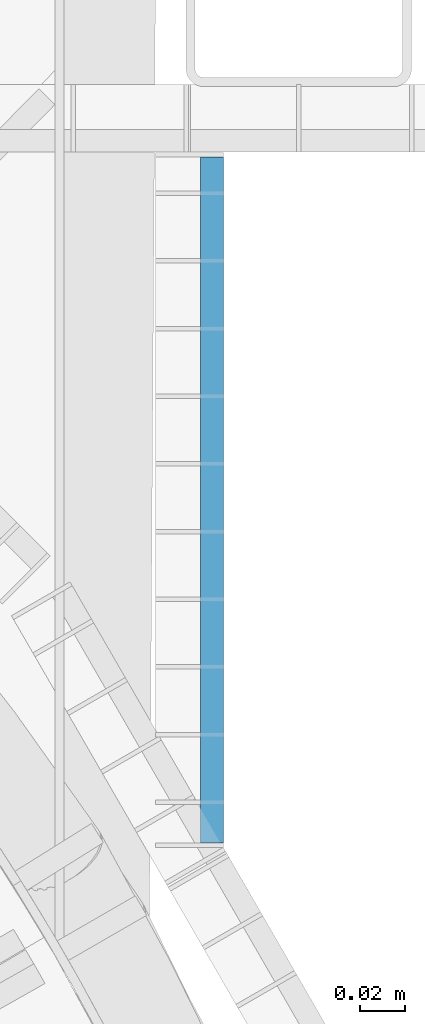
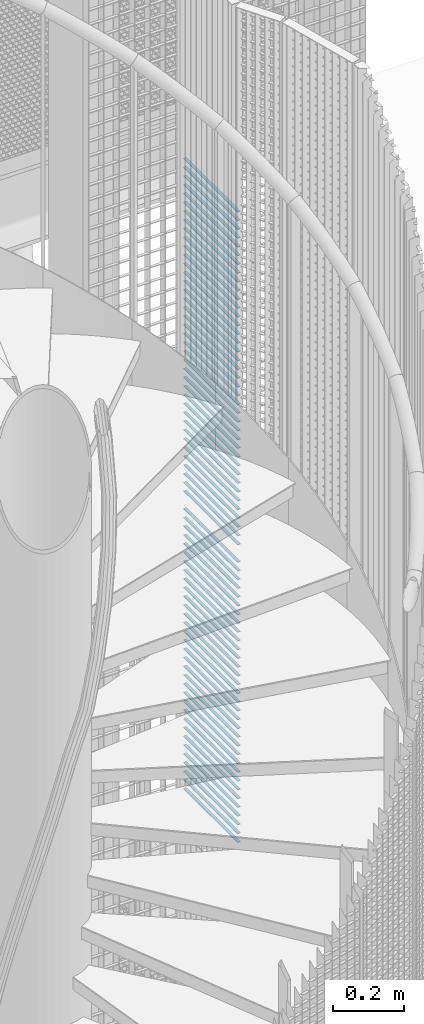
# One storey, part 273 of 1183: 72 beams, 1 element without a shape of its own.
"""IFC2X3 building model written with IfcOpenShell, lengths in millimetres."""

import ifcopenshell
import ifcopenshell.guid

model = None  # the IFC model being written
_history = None  # IfcOwnerHistory: only IFC2X3 demands one
_inside = {}  # id of a spatial element -> (the spatial element, [elements in it])
_under = {}  # id of a project, library or spatial element -> (it, [spatial elements below it])
_declared = {}  # id of a project -> (the project, [libraries it declares])
_typed = {}  # id of a type object -> (the type object, [elements of that type])
_made_of = {}  # id of a material, layer set ... -> (it, [elements and type objects made of it])


def new_model(schema):
    """Start an empty IFC model of exactly this schema.

    Asked for "IFC4X3", IfcOpenShell would pick the latest addendum, in which some entities
    have other attributes; the version numbers below select the first issue.
    IFC2X3 requires an IfcOwnerHistory on every rooted entity: one is made here for all.
    """
    global model, _history
    if schema == "IFC4X3":
        model = ifcopenshell.file(schema_version=(4, 3, 0, 0))
    else:
        model = ifcopenshell.file(schema=schema)
    _inside.clear()
    _under.clear()
    _declared.clear()
    _typed.clear()
    _made_of.clear()
    _history = None
    if model.schema == "IFC2X3":
        org = make("IfcOrganization", Name="unknown")
        user = make(
            "IfcPersonAndOrganization",
            ThePerson=make("IfcPerson", FamilyName="unknown"),
            TheOrganization=org,
        )
        app = make(
            "IfcApplication",
            ApplicationDeveloper=org,
            Version="unknown",
            ApplicationFullName="unknown",
            ApplicationIdentifier="unknown",
        )
        _history = make(
            "IfcOwnerHistory",
            OwningUser=user,
            OwningApplication=app,
            ChangeAction="ADDED",
            CreationDate=0,
        )
    return model


def make(cls, **values):
    """One entity of the class cls with the attributes given. An attribute that is None is left unset."""
    return model.create_entity(
        cls, **{name: value for name, value in values.items() if value is not None}
    )


def rooted(cls, **values):
    """An entity with a GlobalId (a new one), such as an element, a storey or a relation."""
    return make(cls, GlobalId=ifcopenshell.guid.new(), OwnerHistory=_history, **values)


def si_unit(unit_type, name, prefix=None):
    """IfcSIUnit, for example si_unit("LENGTHUNIT", "METRE", prefix="MILLI")."""
    return make("IfcSIUnit", UnitType=unit_type, Prefix=prefix, Name=name)


def assignment(units):
    """IfcUnitAssignment: the units of a project."""
    return None if units is None else make("IfcUnitAssignment", Units=units)


def point(xyz):
    """IfcCartesianPoint."""
    return None if xyz is None else make("IfcCartesianPoint", Coordinates=xyz)


def direction(xyz):
    """IfcDirection."""
    return None if xyz is None else make("IfcDirection", DirectionRatios=xyz)


def frame(location, z_axis=None, x_axis=None):
    """IfcAxis2Placement3D, a coordinate frame: its origin and axes. An axis left out is left unset."""
    return make(
        "IfcAxis2Placement3D",
        Location=point(location),
        Axis=direction(z_axis),
        RefDirection=direction(x_axis),
    )


def frame_2d(location, x_axis=None):
    """IfcAxis2Placement2D, a coordinate frame in the plane: its origin and x axis."""
    return make(
        "IfcAxis2Placement2D", Location=point(location), RefDirection=direction(x_axis)
    )


def origin_with_axes():
    """The frame at (0, 0, 0) with the z axis (0, 0, 1) and the x axis (1, 0, 0) written out."""
    return frame((0.0, 0.0, 0.0), z_axis=(0.0, 0.0, 1.0), x_axis=(1.0, 0.0, 0.0))


def origin_2d_with_axis():
    """The frame at (0, 0) in the plane with the x axis (1, 0) written out."""
    return frame_2d((0.0, 0.0), x_axis=(1.0, 0.0))


def place(relative_to, where):
    """IfcLocalPlacement: puts the frame where relative to a parent placement (None: the world)."""
    return make(
        "IfcLocalPlacement", PlacementRelTo=relative_to, RelativePlacement=where
    )


def context(
    kind, dimensions, precision=None, world=None, true_north=None, identifier=None
):
    """IfcGeometricRepresentationContext, for example the 3D "Model" context."""
    return make(
        "IfcGeometricRepresentationContext",
        ContextIdentifier=identifier,
        ContextType=kind,
        CoordinateSpaceDimension=dimensions,
        Precision=precision,
        WorldCoordinateSystem=world,
        TrueNorth=true_north,
    )


def subcontext(parent, identifier, kind, view, scale=None):
    """IfcGeometricRepresentationSubContext, for example "Body" below "Model"."""
    return make(
        "IfcGeometricRepresentationSubContext",
        ContextIdentifier=identifier,
        ContextType=kind,
        ParentContext=parent,
        TargetScale=scale,
        TargetView=view,
    )


def project(units=None, contexts=None):
    """IfcProject with its units and contexts."""
    return rooted(
        "IfcProject",
        Name="project",
        RepresentationContexts=contexts,
        UnitsInContext=assignment(units),
    )


def spatial(cls, under=None, at=None, **own):
    """A site, building, storey or space (cls), placed at a placement, below another one or the project."""
    s = rooted(cls, ObjectPlacement=at, **own)
    if under is not None:
        _under.setdefault(under.id(), (under, []))[1].append(s)
    return s


def profile(cls, at=None, kind="AREA", **sizes):
    """A parametric profile (cls). Its sizes go by their IFC names, for example OverallWidth=200.0."""
    return make(cls, ProfileType=kind, Position=at, **sizes)


def rectangle(**sizes):
    """IfcRectangleProfileDef."""
    return profile("IfcRectangleProfileDef", **sizes)


def extrude(swept, where, along, depth):
    """IfcExtrudedAreaSolid: the profile swept, set in the frame where, extruded along a direction by depth."""
    return make(
        "IfcExtrudedAreaSolid",
        SweptArea=swept,
        Position=where,
        ExtrudedDirection=direction(along),
        Depth=depth,
    )


def shape(context_of_items, identifier, shape_type, items):
    """IfcShapeRepresentation: the items that make up one representation, for example the "Body"."""
    return make(
        "IfcShapeRepresentation",
        ContextOfItems=context_of_items,
        RepresentationIdentifier=identifier,
        RepresentationType=shape_type,
        Items=items,
    )


def material(Name=None, Category=None):
    """IfcMaterial."""
    return make("IfcMaterial", Name=Name, Category=Category)


def made_of(thing, what):
    """Note that an element or type object is made of a material, layer set ...; save() writes the relation."""
    if what is not None:
        _made_of.setdefault(what.id(), (what, []))[1].append(thing)
    return thing


def type_object(cls, material=None, **own):
    """A type object (cls), such as IfcWallType, which elements share."""
    return made_of(rooted(cls, **own), material)


def element(
    cls,
    number,
    at=None,
    inside=None,
    cuts=None,
    type_object=None,
    material=None,
    context=None,
    identifier="Body",
    shape_type=None,
    held_by="IfcProductDefinitionShape",
    body=None,
    shapes=None,
    **own,
):
    """One element of the class cls, such as IfcWall. Its Tag is "e" and its number.

    at: its placement. inside: the storey or other place that contains it. cuts: it is an
    opening in that element (IfcRelVoidsElement). A single representation is given by context,
    identifier, shape_type and body (its items); several are given by shapes. held_by: the class
    of the entity that holds the representations. save() writes the other relations.
    """
    e = rooted(cls, Tag="e%d" % number, ObjectPlacement=at, **own)
    if body is not None:
        shapes = [shape(context, identifier, shape_type, body)]
    if shapes is not None:
        e.Representation = make(held_by, Representations=shapes)
    if inside is not None:
        _inside.setdefault(inside.id(), (inside, []))[1].append(e)
    if cuts is not None:
        rooted(
            "IfcRelVoidsElement", RelatingBuildingElement=cuts, RelatedOpeningElement=e
        )
    if type_object is not None:
        _typed.setdefault(type_object.id(), (type_object, []))[1].append(e)
    return made_of(e, material)


def aggregate(whole, parts):
    """IfcRelAggregates: a whole, such as a stair, and the parts it consists of."""
    return rooted("IfcRelAggregates", RelatingObject=whole, RelatedObjects=parts)


def save(model, path):
    """Write the relations noted so far, then the file.

    IfcRelAggregates (storeys below a building ...), IfcRelContainedInSpatialStructure (elements
    in a storey), IfcRelDefinesByType, IfcRelAssociatesMaterial and IfcRelDeclares: one each for
    every whole, place, type object, material and project.
    """
    for whole, parts in _under.values():
        aggregate(whole, parts)
    for where, things in _inside.values():
        rooted(
            "IfcRelContainedInSpatialStructure",
            RelatedElements=things,
            RelatingStructure=where,
        )
    for kind, things in _typed.values():
        rooted("IfcRelDefinesByType", RelatedObjects=things, RelatingType=kind)
    for what, things in _made_of.values():
        rooted("IfcRelAssociatesMaterial", RelatedObjects=things, RelatingMaterial=what)
    for by, libraries in _declared.values():
        rooted("IfcRelDeclares", RelatingContext=by, RelatedDefinitions=libraries)
    model.write(path)


model = new_model("IFC2X3")

# Units and contexts
model_context = context("Model", 3, precision=1e-05, world=origin_with_axes())
body_context = subcontext(model_context, "Body", "Model", "MODEL_VIEW")
ifc_project = project(units=[si_unit("LENGTHUNIT", "METRE", prefix="MILLI"), si_unit("AREAUNIT", "SQUARE_METRE"), si_unit("VOLUMEUNIT", "CUBIC_METRE"), si_unit("MASSUNIT", "GRAM", prefix="KILO"), si_unit("TIMEUNIT", "SECOND"), si_unit("PLANEANGLEUNIT", "RADIAN"), si_unit("SOLIDANGLEUNIT", "STERADIAN"), si_unit("THERMODYNAMICTEMPERATUREUNIT", "DEGREE_CELSIUS"), si_unit("LUMINOUSINTENSITYUNIT", "LUMEN")], contexts=[model_context])

# Site, building, storey
site_placement = place(None, origin_with_axes())
site = spatial("IfcSite", under=ifc_project, at=site_placement, Name="Undefined", CompositionType="ELEMENT")
building_placement = place(site_placement, origin_with_axes())
building = spatial("IfcBuilding", under=site, at=building_placement, Name="Undefined", CompositionType="ELEMENT")
storey_placement = place(building_placement, origin_with_axes())
storey = spatial("IfcBuildingStorey", under=building, at=storey_placement, Name="Undefined", CompositionType="ELEMENT", Elevation=0.0)

# Assembly, beams
assembly_placement = place(storey_placement, origin_with_axes())
assembly = element("IfcElementAssembly", 1, at=assembly_placement, inside=storey, Name="BORDURE", AssemblyPlace="NOTDEFINED", PredefinedType="NOTDEFINED")
ifc_material = material(Name="STEEL/S235JR")
beam_type = type_object("IfcBeamType", Name="PL2*10", PredefinedType="NOTDEFINED")
beam_1_placement = place(assembly_placement, frame((961.586915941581, 564.782669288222, 17280.0), z_axis=(1.0, 0.0, 0.0), x_axis=(0.0, 1.0, 0.0)))
beam_1 = element("IfcBeam", 2, at=beam_1_placement, type_object=beam_type, material=ifc_material, Name="ENTRETOISE", context=body_context, shape_type="SweptSolid", body=[
    extrude(rectangle(XDim=2.0, YDim=10.0, at=origin_2d_with_axis()), frame((303.999999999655, 0.0, 0.0), z_axis=(-1.0, 0.0, 0.0), x_axis=(0.0, -1.0, 0.0)), (0.0, 0.0, 1.0), 304.0),
])
beam_2_placement = place(assembly_placement, frame((961.586915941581, 564.782669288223, 17250.0), z_axis=(1.0, 0.0, 0.0), x_axis=(0.0, 1.0, 0.0)))
beam_2 = element("IfcBeam", 3, at=beam_2_placement, type_object=beam_type, material=ifc_material, Name="ENTRETOISE", context=body_context, shape_type="SweptSolid", body=[
    extrude(rectangle(XDim=2.0, YDim=10.0, at=origin_2d_with_axis()), frame((303.999999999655, 0.0, 0.0), z_axis=(-1.0, 0.0, 0.0), x_axis=(0.0, -1.0, 0.0)), (0.0, 0.0, 1.0), 304.0),
])
beam_3_placement = place(assembly_placement, frame((961.586915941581, 564.782669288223, 17220.0), z_axis=(1.0, 0.0, 0.0), x_axis=(0.0, 1.0, 0.0)))
beam_3 = element("IfcBeam", 4, at=beam_3_placement, type_object=beam_type, material=ifc_material, Name="ENTRETOISE", context=body_context, shape_type="SweptSolid", body=[
    extrude(rectangle(XDim=2.0, YDim=10.0, at=origin_2d_with_axis()), frame((303.999999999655, 0.0, 0.0), z_axis=(-1.0, 0.0, 0.0), x_axis=(0.0, -1.0, 0.0)), (0.0, 0.0, 1.0), 304.0),
])
beam_4_placement = place(assembly_placement, frame((961.586915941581, 564.782669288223, 17190.0), z_axis=(1.0, 0.0, 0.0), x_axis=(0.0, 1.0, 0.0)))
beam_4 = element("IfcBeam", 5, at=beam_4_placement, type_object=beam_type, material=ifc_material, Name="ENTRETOISE", context=body_context, shape_type="SweptSolid", body=[
    extrude(rectangle(XDim=2.0, YDim=10.0, at=origin_2d_with_axis()), frame((303.999999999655, 0.0, 0.0), z_axis=(-1.0, 0.0, 0.0), x_axis=(0.0, -1.0, 0.0)), (0.0, 0.0, 1.0), 304.0),
])
beam_5_placement = place(assembly_placement, frame((961.586915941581, 564.782669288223, 17160.0), z_axis=(1.0, 0.0, 0.0), x_axis=(0.0, 1.0, 0.0)))
beam_5 = element("IfcBeam", 6, at=beam_5_placement, type_object=beam_type, material=ifc_material, Name="ENTRETOISE", context=body_context, shape_type="SweptSolid", body=[
    extrude(rectangle(XDim=2.0, YDim=10.0, at=origin_2d_with_axis()), frame((303.999999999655, 0.0, 0.0), z_axis=(-1.0, 0.0, 0.0), x_axis=(0.0, -1.0, 0.0)), (0.0, 0.0, 1.0), 304.0),
])
beam_6_placement = place(assembly_placement, frame((961.586915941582, 564.782669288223, 17130.0), z_axis=(1.0, 0.0, 0.0), x_axis=(0.0, 1.0, 0.0)))
beam_6 = element("IfcBeam", 7, at=beam_6_placement, type_object=beam_type, material=ifc_material, Name="ENTRETOISE", context=body_context, shape_type="SweptSolid", body=[
    extrude(rectangle(XDim=2.0, YDim=10.0, at=origin_2d_with_axis()), frame((303.999999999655, 0.0, 0.0), z_axis=(-1.0, 0.0, 0.0), x_axis=(0.0, -1.0, 0.0)), (0.0, 0.0, 1.0), 304.0),
])
beam_7_placement = place(assembly_placement, frame((961.586915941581, 564.782669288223, 17100.0), z_axis=(1.0, 0.0, 0.0), x_axis=(0.0, 1.0, 0.0)))
beam_7 = element("IfcBeam", 8, at=beam_7_placement, type_object=beam_type, material=ifc_material, Name="ENTRETOISE", context=body_context, shape_type="SweptSolid", body=[
    extrude(rectangle(XDim=2.0, YDim=10.0, at=origin_2d_with_axis()), frame((303.999999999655, 0.0, 0.0), z_axis=(-1.0, 0.0, 0.0), x_axis=(0.0, -1.0, 0.0)), (0.0, 0.0, 1.0), 304.0),
])
beam_8_placement = place(assembly_placement, frame((961.586915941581, 564.782669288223, 17070.0), z_axis=(1.0, 0.0, 0.0), x_axis=(0.0, 1.0, 0.0)))
beam_8 = element("IfcBeam", 9, at=beam_8_placement, type_object=beam_type, material=ifc_material, Name="ENTRETOISE", context=body_context, shape_type="SweptSolid", body=[
    extrude(rectangle(XDim=2.0, YDim=10.0, at=origin_2d_with_axis()), frame((303.999999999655, 0.0, 0.0), z_axis=(-1.0, 0.0, 0.0), x_axis=(0.0, -1.0, 0.0)), (0.0, 0.0, 1.0), 304.0),
])
beam_9_placement = place(assembly_placement, frame((961.586915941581, 564.782669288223, 17040.0), z_axis=(1.0, 0.0, 0.0), x_axis=(0.0, 1.0, 0.0)))
beam_9 = element("IfcBeam", 10, at=beam_9_placement, type_object=beam_type, material=ifc_material, Name="ENTRETOISE", context=body_context, shape_type="SweptSolid", body=[
    extrude(rectangle(XDim=2.0, YDim=10.0, at=origin_2d_with_axis()), frame((303.999999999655, 0.0, 0.0), z_axis=(-1.0, 0.0, 0.0), x_axis=(0.0, -1.0, 0.0)), (0.0, 0.0, 1.0), 304.0),
])
beam_10_placement = place(assembly_placement, frame((961.586915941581, 564.782669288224, 17010.0), z_axis=(1.0, 0.0, 0.0), x_axis=(0.0, 1.0, 0.0)))
beam_10 = element("IfcBeam", 11, at=beam_10_placement, type_object=beam_type, material=ifc_material, Name="ENTRETOISE", context=body_context, shape_type="SweptSolid", body=[
    extrude(rectangle(XDim=2.0, YDim=10.0, at=origin_2d_with_axis()), frame((303.999999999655, 0.0, 0.0), z_axis=(-1.0, 0.0, 0.0), x_axis=(0.0, -1.0, 0.0)), (0.0, 0.0, 1.0), 304.0),
])
beam_11_placement = place(assembly_placement, frame((961.586915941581, 564.782669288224, 16980.0), z_axis=(1.0, 0.0, 0.0), x_axis=(0.0, 1.0, 0.0)))
beam_11 = element("IfcBeam", 12, at=beam_11_placement, type_object=beam_type, material=ifc_material, Name="ENTRETOISE", context=body_context, shape_type="SweptSolid", body=[
    extrude(rectangle(XDim=2.0, YDim=10.0, at=origin_2d_with_axis()), frame((303.999999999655, 0.0, 0.0), z_axis=(-1.0, 0.0, 0.0), x_axis=(0.0, -1.0, 0.0)), (0.0, 0.0, 1.0), 304.0),
])
beam_12_placement = place(assembly_placement, frame((961.586915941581, 564.782669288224, 16950.0), z_axis=(1.0, 0.0, 0.0), x_axis=(0.0, 1.0, 0.0)))
beam_12 = element("IfcBeam", 13, at=beam_12_placement, type_object=beam_type, material=ifc_material, Name="ENTRETOISE", context=body_context, shape_type="SweptSolid", body=[
    extrude(rectangle(XDim=2.0, YDim=10.0, at=origin_2d_with_axis()), frame((303.999999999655, 0.0, 0.0), z_axis=(-1.0, 0.0, 0.0), x_axis=(0.0, -1.0, 0.0)), (0.0, 0.0, 1.0), 304.0),
])
beam_13_placement = place(assembly_placement, frame((961.586915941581, 564.782669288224, 16920.0), z_axis=(1.0, 0.0, 0.0), x_axis=(0.0, 1.0, 0.0)))
beam_13 = element("IfcBeam", 14, at=beam_13_placement, type_object=beam_type, material=ifc_material, Name="ENTRETOISE", context=body_context, shape_type="SweptSolid", body=[
    extrude(rectangle(XDim=2.0, YDim=10.0, at=origin_2d_with_axis()), frame((303.999999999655, 0.0, 0.0), z_axis=(-1.0, 0.0, 0.0), x_axis=(0.0, -1.0, 0.0)), (0.0, 0.0, 1.0), 304.0),
])
beam_14_placement = place(assembly_placement, frame((961.586915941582, 564.782669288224, 16890.0), z_axis=(1.0, 0.0, 0.0), x_axis=(0.0, 1.0, 0.0)))
beam_14 = element("IfcBeam", 15, at=beam_14_placement, type_object=beam_type, material=ifc_material, Name="ENTRETOISE", context=body_context, shape_type="SweptSolid", body=[
    extrude(rectangle(XDim=2.0, YDim=10.0, at=origin_2d_with_axis()), frame((303.999999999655, 0.0, 0.0), z_axis=(-1.0, 0.0, 0.0), x_axis=(0.0, -1.0, 0.0)), (0.0, 0.0, 1.0), 304.0),
])
beam_15_placement = place(assembly_placement, frame((961.586915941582, 564.782669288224, 16860.0), z_axis=(1.0, 0.0, 0.0), x_axis=(0.0, 1.0, 0.0)))
beam_15 = element("IfcBeam", 16, at=beam_15_placement, type_object=beam_type, material=ifc_material, Name="ENTRETOISE", context=body_context, shape_type="SweptSolid", body=[
    extrude(rectangle(XDim=2.0, YDim=10.0, at=origin_2d_with_axis()), frame((303.999999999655, 0.0, 0.0), z_axis=(-1.0, 0.0, 0.0), x_axis=(0.0, -1.0, 0.0)), (0.0, 0.0, 1.0), 304.0),
])
beam_16_placement = place(assembly_placement, frame((961.586915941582, 564.782669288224, 16830.0), z_axis=(1.0, 0.0, 0.0), x_axis=(0.0, 1.0, 0.0)))
beam_16 = element("IfcBeam", 17, at=beam_16_placement, type_object=beam_type, material=ifc_material, Name="ENTRETOISE", context=body_context, shape_type="SweptSolid", body=[
    extrude(rectangle(XDim=2.0, YDim=10.0, at=origin_2d_with_axis()), frame((303.999999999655, 0.0, 0.0), z_axis=(-1.0, 0.0, 0.0), x_axis=(0.0, -1.0, 0.0)), (0.0, 0.0, 1.0), 304.0),
])
beam_17_placement = place(assembly_placement, frame((961.586915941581, 564.782669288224, 16800.0), z_axis=(1.0, 0.0, 0.0), x_axis=(0.0, 1.0, 0.0)))
beam_17 = element("IfcBeam", 18, at=beam_17_placement, type_object=beam_type, material=ifc_material, Name="ENTRETOISE", context=body_context, shape_type="SweptSolid", body=[
    extrude(rectangle(XDim=2.0, YDim=10.0, at=origin_2d_with_axis()), frame((303.999999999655, 0.0, 0.0), z_axis=(-1.0, 0.0, 0.0), x_axis=(0.0, -1.0, 0.0)), (0.0, 0.0, 1.0), 304.0),
])
beam_18_placement = place(assembly_placement, frame((961.586915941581, 564.782669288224, 16770.0), z_axis=(1.0, 0.0, 0.0), x_axis=(0.0, 1.0, 0.0)))
beam_18 = element("IfcBeam", 19, at=beam_18_placement, type_object=beam_type, material=ifc_material, Name="ENTRETOISE", context=body_context, shape_type="SweptSolid", body=[
    extrude(rectangle(XDim=2.0, YDim=10.0, at=origin_2d_with_axis()), frame((303.999999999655, 0.0, 0.0), z_axis=(-1.0, 0.0, 0.0), x_axis=(0.0, -1.0, 0.0)), (0.0, 0.0, 1.0), 304.0),
])
beam_19_placement = place(assembly_placement, frame((961.586915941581, 564.782669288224, 16740.0), z_axis=(1.0, 0.0, 0.0), x_axis=(0.0, 1.0, 0.0)))
beam_19 = element("IfcBeam", 20, at=beam_19_placement, type_object=beam_type, material=ifc_material, Name="ENTRETOISE", context=body_context, shape_type="SweptSolid", body=[
    extrude(rectangle(XDim=2.0, YDim=10.0, at=origin_2d_with_axis()), frame((303.999999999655, 0.0, 0.0), z_axis=(-1.0, 0.0, 0.0), x_axis=(0.0, -1.0, 0.0)), (0.0, 0.0, 1.0), 304.0),
])
beam_20_placement = place(assembly_placement, frame((961.586915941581, 564.782669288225, 16710.0), z_axis=(1.0, 0.0, 0.0), x_axis=(0.0, 1.0, 0.0)))
beam_20 = element("IfcBeam", 21, at=beam_20_placement, type_object=beam_type, material=ifc_material, Name="ENTRETOISE", context=body_context, shape_type="SweptSolid", body=[
    extrude(rectangle(XDim=2.0, YDim=10.0, at=origin_2d_with_axis()), frame((303.999999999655, 0.0, 0.0), z_axis=(-1.0, 0.0, 0.0), x_axis=(0.0, -1.0, 0.0)), (0.0, 0.0, 1.0), 304.0),
])
beam_21_placement = place(assembly_placement, frame((961.586915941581, 564.782669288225, 16680.0), z_axis=(1.0, 0.0, 0.0), x_axis=(0.0, 1.0, 0.0)))
beam_21 = element("IfcBeam", 22, at=beam_21_placement, type_object=beam_type, material=ifc_material, Name="ENTRETOISE", context=body_context, shape_type="SweptSolid", body=[
    extrude(rectangle(XDim=2.0, YDim=10.0, at=origin_2d_with_axis()), frame((303.999999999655, 0.0, 0.0), z_axis=(-1.0, 0.0, 0.0), x_axis=(0.0, -1.0, 0.0)), (0.0, 0.0, 1.0), 304.0),
])
beam_22_placement = place(assembly_placement, frame((961.586915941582, 564.782669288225, 16650.0), z_axis=(1.0, 0.0, 0.0), x_axis=(0.0, 1.0, 0.0)))
beam_22 = element("IfcBeam", 23, at=beam_22_placement, type_object=beam_type, material=ifc_material, Name="ENTRETOISE", context=body_context, shape_type="SweptSolid", body=[
    extrude(rectangle(XDim=2.0, YDim=10.0, at=origin_2d_with_axis()), frame((303.999999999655, 0.0, 0.0), z_axis=(-1.0, 0.0, 0.0), x_axis=(0.0, -1.0, 0.0)), (0.0, 0.0, 1.0), 304.0),
])
beam_23_placement = place(assembly_placement, frame((961.586915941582, 564.782669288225, 16620.0), z_axis=(1.0, 0.0, 0.0), x_axis=(0.0, 1.0, 0.0)))
beam_23 = element("IfcBeam", 24, at=beam_23_placement, type_object=beam_type, material=ifc_material, Name="ENTRETOISE", context=body_context, shape_type="SweptSolid", body=[
    extrude(rectangle(XDim=2.0, YDim=10.0, at=origin_2d_with_axis()), frame((303.999999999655, 0.0, 0.0), z_axis=(-1.0, 0.0, 0.0), x_axis=(0.0, -1.0, 0.0)), (0.0, 0.0, 1.0), 304.0),
])
beam_24_placement = place(assembly_placement, frame((961.586915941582, 564.782669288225, 16590.0), z_axis=(1.0, 0.0, 0.0), x_axis=(0.0, 1.0, 0.0)))
beam_24 = element("IfcBeam", 25, at=beam_24_placement, type_object=beam_type, material=ifc_material, Name="ENTRETOISE", context=body_context, shape_type="SweptSolid", body=[
    extrude(rectangle(XDim=2.0, YDim=10.0, at=origin_2d_with_axis()), frame((303.999999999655, 0.0, 0.0), z_axis=(-1.0, 0.0, 0.0), x_axis=(0.0, -1.0, 0.0)), (0.0, 0.0, 1.0), 304.0),
])
beam_25_placement = place(assembly_placement, frame((961.586915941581, 564.782669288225, 16560.0), z_axis=(1.0, 0.0, 0.0), x_axis=(0.0, 1.0, 0.0)))
beam_25 = element("IfcBeam", 26, at=beam_25_placement, type_object=beam_type, material=ifc_material, Name="ENTRETOISE", context=body_context, shape_type="SweptSolid", body=[
    extrude(rectangle(XDim=2.0, YDim=10.0, at=origin_2d_with_axis()), frame((303.999999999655, 0.0, 0.0), z_axis=(-1.0, 0.0, 0.0), x_axis=(0.0, -1.0, 0.0)), (0.0, 0.0, 1.0), 304.0),
])
beam_26_placement = place(assembly_placement, frame((961.586915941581, 564.782669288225, 16530.0), z_axis=(1.0, 0.0, 0.0), x_axis=(0.0, 1.0, 0.0)))
beam_26 = element("IfcBeam", 27, at=beam_26_placement, type_object=beam_type, material=ifc_material, Name="ENTRETOISE", context=body_context, shape_type="SweptSolid", body=[
    extrude(rectangle(XDim=2.0, YDim=10.0, at=origin_2d_with_axis()), frame((303.999999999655, 0.0, 0.0), z_axis=(-1.0, 0.0, 0.0), x_axis=(0.0, -1.0, 0.0)), (0.0, 0.0, 1.0), 304.0),
])
beam_27_placement = place(assembly_placement, frame((961.586915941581, 564.782669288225, 16500.0), z_axis=(1.0, 0.0, 0.0), x_axis=(0.0, 1.0, 0.0)))
beam_27 = element("IfcBeam", 28, at=beam_27_placement, type_object=beam_type, material=ifc_material, Name="ENTRETOISE", context=body_context, shape_type="SweptSolid", body=[
    extrude(rectangle(XDim=2.0, YDim=10.0, at=origin_2d_with_axis()), frame((303.999999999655, 0.0, 0.0), z_axis=(-1.0, 0.0, 0.0), x_axis=(0.0, -1.0, 0.0)), (0.0, 0.0, 1.0), 304.0),
])
beam_28_placement = place(assembly_placement, frame((961.586915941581, 564.782669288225, 16470.0), z_axis=(1.0, 0.0, 0.0), x_axis=(0.0, 1.0, 0.0)))
beam_28 = element("IfcBeam", 29, at=beam_28_placement, type_object=beam_type, material=ifc_material, Name="ENTRETOISE", context=body_context, shape_type="SweptSolid", body=[
    extrude(rectangle(XDim=2.0, YDim=10.0, at=origin_2d_with_axis()), frame((303.999999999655, 0.0, 0.0), z_axis=(-1.0, 0.0, 0.0), x_axis=(0.0, -1.0, 0.0)), (0.0, 0.0, 1.0), 304.0),
])
beam_29_placement = place(assembly_placement, frame((961.586915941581, 564.782669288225, 16440.0), z_axis=(1.0, 0.0, 0.0), x_axis=(0.0, 1.0, 0.0)))
beam_29 = element("IfcBeam", 30, at=beam_29_placement, type_object=beam_type, material=ifc_material, Name="ENTRETOISE", context=body_context, shape_type="SweptSolid", body=[
    extrude(rectangle(XDim=2.0, YDim=10.0, at=origin_2d_with_axis()), frame((303.999999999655, 0.0, 0.0), z_axis=(-1.0, 0.0, 0.0), x_axis=(0.0, -1.0, 0.0)), (0.0, 0.0, 1.0), 304.0),
])
beam_30_placement = place(assembly_placement, frame((961.586915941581, 564.782669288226, 16410.0), z_axis=(1.0, 0.0, 0.0), x_axis=(0.0, 1.0, 0.0)))
beam_30 = element("IfcBeam", 31, at=beam_30_placement, type_object=beam_type, material=ifc_material, Name="ENTRETOISE", context=body_context, shape_type="SweptSolid", body=[
    extrude(rectangle(XDim=2.0, YDim=10.0, at=origin_2d_with_axis()), frame((303.999999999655, 0.0, 0.0), z_axis=(-1.0, 0.0, 0.0), x_axis=(0.0, -1.0, 0.0)), (0.0, 0.0, 1.0), 304.0),
])
beam_31_placement = place(assembly_placement, frame((961.586915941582, 564.782669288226, 16380.0), z_axis=(1.0, 0.0, 0.0), x_axis=(0.0, 1.0, 0.0)))
beam_31 = element("IfcBeam", 32, at=beam_31_placement, type_object=beam_type, material=ifc_material, Name="ENTRETOISE", context=body_context, shape_type="SweptSolid", body=[
    extrude(rectangle(XDim=2.0, YDim=10.0, at=origin_2d_with_axis()), frame((303.999999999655, 0.0, 0.0), z_axis=(-1.0, 0.0, 0.0), x_axis=(0.0, -1.0, 0.0)), (0.0, 0.0, 1.0), 304.0),
])
beam_32_placement = place(assembly_placement, frame((961.586915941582, 564.782669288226, 16350.0), z_axis=(1.0, 0.0, 0.0), x_axis=(0.0, 1.0, 0.0)))
beam_32 = element("IfcBeam", 33, at=beam_32_placement, type_object=beam_type, material=ifc_material, Name="ENTRETOISE", context=body_context, shape_type="SweptSolid", body=[
    extrude(rectangle(XDim=2.0, YDim=10.0, at=origin_2d_with_axis()), frame((303.999999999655, 0.0, 0.0), z_axis=(-1.0, 0.0, 0.0), x_axis=(0.0, -1.0, 0.0)), (0.0, 0.0, 1.0), 304.0),
])
beam_33_placement = place(assembly_placement, frame((961.586915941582, 564.782669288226, 16320.0), z_axis=(1.0, 0.0, 0.0), x_axis=(0.0, 1.0, 0.0)))
beam_33 = element("IfcBeam", 34, at=beam_33_placement, type_object=beam_type, material=ifc_material, Name="ENTRETOISE", context=body_context, shape_type="SweptSolid", body=[
    extrude(rectangle(XDim=2.0, YDim=10.0, at=origin_2d_with_axis()), frame((303.999999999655, 0.0, 0.0), z_axis=(-1.0, 0.0, 0.0), x_axis=(0.0, -1.0, 0.0)), (0.0, 0.0, 1.0), 304.0),
])
beam_34_placement = place(assembly_placement, frame((961.586915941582, 564.782669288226, 16290.0), z_axis=(1.0, 0.0, 0.0), x_axis=(0.0, 1.0, 0.0)))
beam_34 = element("IfcBeam", 35, at=beam_34_placement, type_object=beam_type, material=ifc_material, Name="ENTRETOISE", context=body_context, shape_type="SweptSolid", body=[
    extrude(rectangle(XDim=2.0, YDim=10.0, at=origin_2d_with_axis()), frame((303.999999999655, 0.0, 0.0), z_axis=(-1.0, 0.0, 0.0), x_axis=(0.0, -1.0, 0.0)), (0.0, 0.0, 1.0), 304.0),
])
beam_35_placement = place(assembly_placement, frame((961.586915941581, 564.782669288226, 16260.0), z_axis=(1.0, 0.0, 0.0), x_axis=(0.0, 1.0, 0.0)))
beam_35 = element("IfcBeam", 36, at=beam_35_placement, type_object=beam_type, material=ifc_material, Name="ENTRETOISE", context=body_context, shape_type="SweptSolid", body=[
    extrude(rectangle(XDim=2.0, YDim=10.0, at=origin_2d_with_axis()), frame((303.999999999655, 0.0, 0.0), z_axis=(-1.0, 0.0, 0.0), x_axis=(0.0, -1.0, 0.0)), (0.0, 0.0, 1.0), 304.0),
])
beam_36_placement = place(assembly_placement, frame((961.586915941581, 564.782669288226, 16230.0), z_axis=(1.0, 0.0, 0.0), x_axis=(0.0, 1.0, 0.0)))
beam_36 = element("IfcBeam", 37, at=beam_36_placement, type_object=beam_type, material=ifc_material, Name="ENTRETOISE", context=body_context, shape_type="SweptSolid", body=[
    extrude(rectangle(XDim=2.0, YDim=10.0, at=origin_2d_with_axis()), frame((303.999999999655, 0.0, 0.0), z_axis=(-1.0, 0.0, 0.0), x_axis=(0.0, -1.0, 0.0)), (0.0, 0.0, 1.0), 304.0),
])
beam_37_placement = place(assembly_placement, frame((961.586915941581, 564.782669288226, 16200.0), z_axis=(1.0, 0.0, 0.0), x_axis=(0.0, 1.0, 0.0)))
beam_37 = element("IfcBeam", 38, at=beam_37_placement, type_object=beam_type, material=ifc_material, Name="ENTRETOISE", context=body_context, shape_type="SweptSolid", body=[
    extrude(rectangle(XDim=2.0, YDim=10.0, at=origin_2d_with_axis()), frame((303.999999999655, 0.0, 0.0), z_axis=(-1.0, 0.0, 0.0), x_axis=(0.0, -1.0, 0.0)), (0.0, 0.0, 1.0), 304.0),
])
beam_38_placement = place(assembly_placement, frame((961.586915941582, 564.782669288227, 16170.0), z_axis=(1.0, 0.0, 0.0), x_axis=(0.0, 1.0, 0.0)))
beam_38 = element("IfcBeam", 39, at=beam_38_placement, type_object=beam_type, material=ifc_material, Name="ENTRETOISE", context=body_context, shape_type="SweptSolid", body=[
    extrude(rectangle(XDim=2.0, YDim=10.0, at=origin_2d_with_axis()), frame((303.999999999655, 0.0, 0.0), z_axis=(-1.0, 0.0, 0.0), x_axis=(0.0, -1.0, 0.0)), (0.0, 0.0, 1.0), 304.0),
])
beam_39_placement = place(assembly_placement, frame((961.586915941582, 564.782669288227, 16140.0), z_axis=(1.0, 0.0, 0.0), x_axis=(0.0, 1.0, 0.0)))
beam_39 = element("IfcBeam", 40, at=beam_39_placement, type_object=beam_type, material=ifc_material, Name="ENTRETOISE", context=body_context, shape_type="SweptSolid", body=[
    extrude(rectangle(XDim=2.0, YDim=10.0, at=origin_2d_with_axis()), frame((303.999999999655, 0.0, 0.0), z_axis=(-1.0, 0.0, 0.0), x_axis=(0.0, -1.0, 0.0)), (0.0, 0.0, 1.0), 304.0),
])
beam_40_placement = place(assembly_placement, frame((961.586915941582, 564.782669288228, 15720.0), z_axis=(1.0, 0.0, 0.0), x_axis=(0.0, 1.0, 0.0)))
beam_40 = element("IfcBeam", 41, at=beam_40_placement, type_object=beam_type, material=ifc_material, Name="ENTRETOISE", context=body_context, shape_type="SweptSolid", body=[
    extrude(rectangle(XDim=2.0, YDim=10.0, at=origin_2d_with_axis()), frame((303.999999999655, 0.0, 0.0), z_axis=(-1.0, 0.0, 0.0), x_axis=(0.0, -1.0, 0.0)), (0.0, 0.0, 1.0), 304.0),
])
beam_41_placement = place(assembly_placement, frame((961.586915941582, 564.782669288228, 15690.0), z_axis=(1.0, 0.0, 0.0), x_axis=(0.0, 1.0, 0.0)))
beam_41 = element("IfcBeam", 42, at=beam_41_placement, type_object=beam_type, material=ifc_material, Name="ENTRETOISE", context=body_context, shape_type="SweptSolid", body=[
    extrude(rectangle(XDim=2.0, YDim=10.0, at=origin_2d_with_axis()), frame((303.999999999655, 0.0, 0.0), z_axis=(-1.0, 0.0, 0.0), x_axis=(0.0, -1.0, 0.0)), (0.0, 0.0, 1.0), 304.0),
])
beam_42_placement = place(assembly_placement, frame((961.586915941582, 564.782669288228, 15750.0), z_axis=(1.0, 0.0, 0.0), x_axis=(0.0, 1.0, 0.0)))
beam_42 = element("IfcBeam", 43, at=beam_42_placement, type_object=beam_type, material=ifc_material, Name="ENTRETOISE", context=body_context, shape_type="SweptSolid", body=[
    extrude(rectangle(XDim=2.0, YDim=10.0, at=origin_2d_with_axis()), frame((303.999999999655, 0.0, 0.0), z_axis=(-1.0, 0.0, 0.0), x_axis=(0.0, -1.0, 0.0)), (0.0, 0.0, 1.0), 304.0),
])
beam_43_placement = place(assembly_placement, frame((961.586915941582, 564.782669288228, 15660.0), z_axis=(1.0, 0.0, 0.0), x_axis=(0.0, 1.0, 0.0)))
beam_43 = element("IfcBeam", 44, at=beam_43_placement, type_object=beam_type, material=ifc_material, Name="ENTRETOISE", context=body_context, shape_type="SweptSolid", body=[
    extrude(rectangle(XDim=2.0, YDim=10.0, at=origin_2d_with_axis()), frame((303.999999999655, 0.0, 0.0), z_axis=(-1.0, 0.0, 0.0), x_axis=(0.0, -1.0, 0.0)), (0.0, 0.0, 1.0), 304.0),
])
beam_44_placement = place(assembly_placement, frame((961.586915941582, 564.782669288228, 15630.0), z_axis=(1.0, 0.0, 0.0), x_axis=(0.0, 1.0, 0.0)))
beam_44 = element("IfcBeam", 45, at=beam_44_placement, type_object=beam_type, material=ifc_material, Name="ENTRETOISE", context=body_context, shape_type="SweptSolid", body=[
    extrude(rectangle(XDim=2.0, YDim=10.0, at=origin_2d_with_axis()), frame((303.999999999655, 0.0, 0.0), z_axis=(-1.0, 0.0, 0.0), x_axis=(0.0, -1.0, 0.0)), (0.0, 0.0, 1.0), 304.0),
])
beam_45_placement = place(assembly_placement, frame((961.586915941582, 564.782669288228, 15780.0), z_axis=(1.0, 0.0, 0.0), x_axis=(0.0, 1.0, 0.0)))
beam_45 = element("IfcBeam", 46, at=beam_45_placement, type_object=beam_type, material=ifc_material, Name="ENTRETOISE", context=body_context, shape_type="SweptSolid", body=[
    extrude(rectangle(XDim=2.0, YDim=10.0, at=origin_2d_with_axis()), frame((303.999999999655, 0.0, 0.0), z_axis=(-1.0, 0.0, 0.0), x_axis=(0.0, -1.0, 0.0)), (0.0, 0.0, 1.0), 304.0),
])
beam_46_placement = place(assembly_placement, frame((961.586915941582, 564.782669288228, 15600.0), z_axis=(1.0, 0.0, 0.0), x_axis=(0.0, 1.0, 0.0)))
beam_46 = element("IfcBeam", 47, at=beam_46_placement, type_object=beam_type, material=ifc_material, Name="ENTRETOISE", context=body_context, shape_type="SweptSolid", body=[
    extrude(rectangle(XDim=2.0, YDim=10.0, at=origin_2d_with_axis()), frame((303.999999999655, 0.0, 0.0), z_axis=(-1.0, 0.0, 0.0), x_axis=(0.0, -1.0, 0.0)), (0.0, 0.0, 1.0), 304.0),
])
beam_47_placement = place(assembly_placement, frame((961.586915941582, 564.782669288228, 15810.0), z_axis=(1.0, 0.0, 0.0), x_axis=(0.0, 1.0, 0.0)))
beam_47 = element("IfcBeam", 48, at=beam_47_placement, type_object=beam_type, material=ifc_material, Name="ENTRETOISE", context=body_context, shape_type="SweptSolid", body=[
    extrude(rectangle(XDim=2.0, YDim=10.0, at=origin_2d_with_axis()), frame((303.999999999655, 0.0, 0.0), z_axis=(-1.0, 0.0, 0.0), x_axis=(0.0, -1.0, 0.0)), (0.0, 0.0, 1.0), 304.0),
])
beam_48_placement = place(assembly_placement, frame((961.586915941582, 564.782669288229, 15570.0), z_axis=(1.0, 0.0, 0.0), x_axis=(0.0, 1.0, 0.0)))
beam_48 = element("IfcBeam", 49, at=beam_48_placement, type_object=beam_type, material=ifc_material, Name="ENTRETOISE", context=body_context, shape_type="SweptSolid", body=[
    extrude(rectangle(XDim=2.0, YDim=10.0, at=origin_2d_with_axis()), frame((303.999999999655, 0.0, 0.0), z_axis=(-1.0, 0.0, 0.0), x_axis=(0.0, -1.0, 0.0)), (0.0, 0.0, 1.0), 304.0),
])
beam_49_placement = place(assembly_placement, frame((961.586915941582, 564.782669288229, 15540.0), z_axis=(1.0, 0.0, 0.0), x_axis=(0.0, 1.0, 0.0)))
beam_49 = element("IfcBeam", 50, at=beam_49_placement, type_object=beam_type, material=ifc_material, Name="ENTRETOISE", context=body_context, shape_type="SweptSolid", body=[
    extrude(rectangle(XDim=2.0, YDim=10.0, at=origin_2d_with_axis()), frame((303.999999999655, 0.0, 0.0), z_axis=(-1.0, 0.0, 0.0), x_axis=(0.0, -1.0, 0.0)), (0.0, 0.0, 1.0), 304.0),
])
beam_50_placement = place(assembly_placement, frame((961.586915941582, 564.782669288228, 15840.0), z_axis=(1.0, 0.0, 0.0), x_axis=(0.0, 1.0, 0.0)))
beam_50 = element("IfcBeam", 51, at=beam_50_placement, type_object=beam_type, material=ifc_material, Name="ENTRETOISE", context=body_context, shape_type="SweptSolid", body=[
    extrude(rectangle(XDim=2.0, YDim=10.0, at=origin_2d_with_axis()), frame((303.999999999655, 0.0, 0.0), z_axis=(-1.0, 0.0, 0.0), x_axis=(0.0, -1.0, 0.0)), (0.0, 0.0, 1.0), 304.0),
])
beam_51_placement = place(assembly_placement, frame((961.586915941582, 564.782669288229, 15510.0), z_axis=(1.0, 0.0, 0.0), x_axis=(0.0, 1.0, 0.0)))
beam_51 = element("IfcBeam", 52, at=beam_51_placement, type_object=beam_type, material=ifc_material, Name="ENTRETOISE", context=body_context, shape_type="SweptSolid", body=[
    extrude(rectangle(XDim=2.0, YDim=10.0, at=origin_2d_with_axis()), frame((303.999999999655, 0.0, 0.0), z_axis=(-1.0, 0.0, 0.0), x_axis=(0.0, -1.0, 0.0)), (0.0, 0.0, 1.0), 304.0),
])
beam_52_placement = place(assembly_placement, frame((961.586915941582, 564.782669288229, 15480.0), z_axis=(1.0, 0.0, 0.0), x_axis=(0.0, 1.0, 0.0)))
beam_52 = element("IfcBeam", 53, at=beam_52_placement, type_object=beam_type, material=ifc_material, Name="ENTRETOISE", context=body_context, shape_type="SweptSolid", body=[
    extrude(rectangle(XDim=2.0, YDim=10.0, at=origin_2d_with_axis()), frame((303.999999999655, 0.0, 0.0), z_axis=(-1.0, 0.0, 0.0), x_axis=(0.0, -1.0, 0.0)), (0.0, 0.0, 1.0), 304.0),
])
beam_53_placement = place(assembly_placement, frame((961.586915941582, 564.782669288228, 15870.0), z_axis=(1.0, 0.0, 0.0), x_axis=(0.0, 1.0, 0.0)))
beam_53 = element("IfcBeam", 54, at=beam_53_placement, type_object=beam_type, material=ifc_material, Name="ENTRETOISE", context=body_context, shape_type="SweptSolid", body=[
    extrude(rectangle(XDim=2.0, YDim=10.0, at=origin_2d_with_axis()), frame((303.999999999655, 0.0, 0.0), z_axis=(-1.0, 0.0, 0.0), x_axis=(0.0, -1.0, 0.0)), (0.0, 0.0, 1.0), 304.0),
])
beam_54_placement = place(assembly_placement, frame((961.586915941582, 564.782669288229, 15450.0), z_axis=(1.0, 0.0, 0.0), x_axis=(0.0, 1.0, 0.0)))
beam_54 = element("IfcBeam", 55, at=beam_54_placement, type_object=beam_type, material=ifc_material, Name="ENTRETOISE", context=body_context, shape_type="SweptSolid", body=[
    extrude(rectangle(XDim=2.0, YDim=10.0, at=origin_2d_with_axis()), frame((303.999999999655, 0.0, 0.0), z_axis=(-1.0, 0.0, 0.0), x_axis=(0.0, -1.0, 0.0)), (0.0, 0.0, 1.0), 304.0),
])
beam_55_placement = place(assembly_placement, frame((961.586915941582, 564.782669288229, 15420.0), z_axis=(1.0, 0.0, 0.0), x_axis=(0.0, 1.0, 0.0)))
beam_55 = element("IfcBeam", 56, at=beam_55_placement, type_object=beam_type, material=ifc_material, Name="ENTRETOISE", context=body_context, shape_type="SweptSolid", body=[
    extrude(rectangle(XDim=2.0, YDim=10.0, at=origin_2d_with_axis()), frame((303.999999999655, 0.0, 0.0), z_axis=(-1.0, 0.0, 0.0), x_axis=(0.0, -1.0, 0.0)), (0.0, 0.0, 1.0), 304.0),
])
beam_56_placement = place(assembly_placement, frame((961.586915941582, 564.782669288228, 15900.0), z_axis=(1.0, 0.0, 0.0), x_axis=(0.0, 1.0, 0.0)))
beam_56 = element("IfcBeam", 57, at=beam_56_placement, type_object=beam_type, material=ifc_material, Name="ENTRETOISE", context=body_context, shape_type="SweptSolid", body=[
    extrude(rectangle(XDim=2.0, YDim=10.0, at=origin_2d_with_axis()), frame((303.999999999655, 0.0, 0.0), z_axis=(-1.0, 0.0, 0.0), x_axis=(0.0, -1.0, 0.0)), (0.0, 0.0, 1.0), 304.0),
])
beam_57_placement = place(assembly_placement, frame((961.586915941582, 564.782669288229, 15390.0), z_axis=(1.0, 0.0, 0.0), x_axis=(0.0, 1.0, 0.0)))
beam_57 = element("IfcBeam", 58, at=beam_57_placement, type_object=beam_type, material=ifc_material, Name="ENTRETOISE", context=body_context, shape_type="SweptSolid", body=[
    extrude(rectangle(XDim=2.0, YDim=10.0, at=origin_2d_with_axis()), frame((303.999999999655, 0.0, 0.0), z_axis=(-1.0, 0.0, 0.0), x_axis=(0.0, -1.0, 0.0)), (0.0, 0.0, 1.0), 304.0),
])
beam_58_placement = place(assembly_placement, frame((961.586915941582, 564.782669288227, 15930.0), z_axis=(1.0, 0.0, 0.0), x_axis=(0.0, 1.0, 0.0)))
beam_58 = element("IfcBeam", 59, at=beam_58_placement, type_object=beam_type, material=ifc_material, Name="ENTRETOISE", context=body_context, shape_type="SweptSolid", body=[
    extrude(rectangle(XDim=2.0, YDim=10.0, at=origin_2d_with_axis()), frame((303.999999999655, 0.0, 0.0), z_axis=(-1.0, 0.0, 0.0), x_axis=(0.0, -1.0, 0.0)), (0.0, 0.0, 1.0), 304.0),
])
beam_59_placement = place(assembly_placement, frame((961.586915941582, 564.782669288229, 15360.0), z_axis=(1.0, 0.0, 0.0), x_axis=(0.0, 1.0, 0.0)))
beam_59 = element("IfcBeam", 60, at=beam_59_placement, type_object=beam_type, material=ifc_material, Name="ENTRETOISE", context=body_context, shape_type="SweptSolid", body=[
    extrude(rectangle(XDim=2.0, YDim=10.0, at=origin_2d_with_axis()), frame((303.999999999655, 0.0, 0.0), z_axis=(-1.0, 0.0, 0.0), x_axis=(0.0, -1.0, 0.0)), (0.0, 0.0, 1.0), 304.0),
])
beam_60_placement = place(assembly_placement, frame((961.586915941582, 564.782669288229, 15330.0), z_axis=(1.0, 0.0, 0.0), x_axis=(0.0, 1.0, 0.0)))
beam_60 = element("IfcBeam", 61, at=beam_60_placement, type_object=beam_type, material=ifc_material, Name="ENTRETOISE", context=body_context, shape_type="SweptSolid", body=[
    extrude(rectangle(XDim=2.0, YDim=10.0, at=origin_2d_with_axis()), frame((303.999999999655, 0.0, 0.0), z_axis=(-1.0, 0.0, 0.0), x_axis=(0.0, -1.0, 0.0)), (0.0, 0.0, 1.0), 304.0),
])
beam_61_placement = place(assembly_placement, frame((961.586915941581, 564.782669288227, 15960.0), z_axis=(1.0, 0.0, 0.0), x_axis=(0.0, 1.0, 0.0)))
beam_61 = element("IfcBeam", 62, at=beam_61_placement, type_object=beam_type, material=ifc_material, Name="ENTRETOISE", context=body_context, shape_type="SweptSolid", body=[
    extrude(rectangle(XDim=2.0, YDim=10.0, at=origin_2d_with_axis()), frame((303.999999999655, 0.0, 0.0), z_axis=(-1.0, 0.0, 0.0), x_axis=(0.0, -1.0, 0.0)), (0.0, 0.0, 1.0), 304.0),
])
beam_62_placement = place(assembly_placement, frame((961.586915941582, 564.782669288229, 15300.0), z_axis=(1.0, 0.0, 0.0), x_axis=(0.0, 1.0, 0.0)))
beam_62 = element("IfcBeam", 63, at=beam_62_placement, type_object=beam_type, material=ifc_material, Name="ENTRETOISE", context=body_context, shape_type="SweptSolid", body=[
    extrude(rectangle(XDim=2.0, YDim=10.0, at=origin_2d_with_axis()), frame((303.999999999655, 0.0, 0.0), z_axis=(-1.0, 0.0, 0.0), x_axis=(0.0, -1.0, 0.0)), (0.0, 0.0, 1.0), 304.0),
])
beam_63_placement = place(assembly_placement, frame((961.586915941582, 564.78266928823, 15270.0), z_axis=(1.0, 0.0, 0.0), x_axis=(0.0, 1.0, 0.0)))
beam_63 = element("IfcBeam", 64, at=beam_63_placement, type_object=beam_type, material=ifc_material, Name="ENTRETOISE", context=body_context, shape_type="SweptSolid", body=[
    extrude(rectangle(XDim=2.0, YDim=10.0, at=origin_2d_with_axis()), frame((303.999999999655, 0.0, 0.0), z_axis=(-1.0, 0.0, 0.0), x_axis=(0.0, -1.0, 0.0)), (0.0, 0.0, 1.0), 304.0),
])
beam_64_placement = place(assembly_placement, frame((961.586915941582, 564.782669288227, 15990.0), z_axis=(1.0, 0.0, 0.0), x_axis=(0.0, 1.0, 0.0)))
beam_64 = element("IfcBeam", 65, at=beam_64_placement, type_object=beam_type, material=ifc_material, Name="ENTRETOISE", context=body_context, shape_type="SweptSolid", body=[
    extrude(rectangle(XDim=2.0, YDim=10.0, at=origin_2d_with_axis()), frame((303.999999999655, 0.0, 0.0), z_axis=(-1.0, 0.0, 0.0), x_axis=(0.0, -1.0, 0.0)), (0.0, 0.0, 1.0), 304.0),
])
beam_65_placement = place(assembly_placement, frame((961.586915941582, 564.78266928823, 15240.0), z_axis=(1.0, 0.0, 0.0), x_axis=(0.0, 1.0, 0.0)))
beam_65 = element("IfcBeam", 66, at=beam_65_placement, type_object=beam_type, material=ifc_material, Name="ENTRETOISE", context=body_context, shape_type="SweptSolid", body=[
    extrude(rectangle(XDim=2.0, YDim=10.0, at=origin_2d_with_axis()), frame((303.999999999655, 0.0, 0.0), z_axis=(-1.0, 0.0, 0.0), x_axis=(0.0, -1.0, 0.0)), (0.0, 0.0, 1.0), 304.0),
])
beam_66_placement = place(assembly_placement, frame((961.586915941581, 564.782669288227, 16020.0), z_axis=(1.0, 0.0, 0.0), x_axis=(0.0, 1.0, 0.0)))
beam_66 = element("IfcBeam", 67, at=beam_66_placement, type_object=beam_type, material=ifc_material, Name="ENTRETOISE", context=body_context, shape_type="SweptSolid", body=[
    extrude(rectangle(XDim=2.0, YDim=10.0, at=origin_2d_with_axis()), frame((303.999999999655, 0.0, 0.0), z_axis=(-1.0, 0.0, 0.0), x_axis=(0.0, -1.0, 0.0)), (0.0, 0.0, 1.0), 304.0),
])
beam_67_placement = place(assembly_placement, frame((961.586915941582, 564.78266928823, 15210.0), z_axis=(1.0, 0.0, 0.0), x_axis=(0.0, 1.0, 0.0)))
beam_67 = element("IfcBeam", 68, at=beam_67_placement, type_object=beam_type, material=ifc_material, Name="ENTRETOISE", context=body_context, shape_type="SweptSolid", body=[
    extrude(rectangle(XDim=2.0, YDim=10.0, at=origin_2d_with_axis()), frame((303.999999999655, 0.0, 0.0), z_axis=(-1.0, 0.0, 0.0), x_axis=(0.0, -1.0, 0.0)), (0.0, 0.0, 1.0), 304.0),
])
beam_68_placement = place(assembly_placement, frame((961.586915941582, 564.78266928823, 15180.0), z_axis=(1.0, 0.0, 0.0), x_axis=(0.0, 1.0, 0.0)))
beam_68 = element("IfcBeam", 69, at=beam_68_placement, type_object=beam_type, material=ifc_material, Name="ENTRETOISE", context=body_context, shape_type="SweptSolid", body=[
    extrude(rectangle(XDim=2.0, YDim=10.0, at=origin_2d_with_axis()), frame((303.999999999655, 0.0, 0.0), z_axis=(-1.0, 0.0, 0.0), x_axis=(0.0, -1.0, 0.0)), (0.0, 0.0, 1.0), 304.0),
])
beam_69_placement = place(assembly_placement, frame((961.586915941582, 564.782669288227, 16050.0), z_axis=(1.0, 0.0, 0.0), x_axis=(0.0, 1.0, 0.0)))
beam_69 = element("IfcBeam", 70, at=beam_69_placement, type_object=beam_type, material=ifc_material, Name="ENTRETOISE", context=body_context, shape_type="SweptSolid", body=[
    extrude(rectangle(XDim=2.0, YDim=10.0, at=origin_2d_with_axis()), frame((303.999999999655, 0.0, 0.0), z_axis=(-1.0, 0.0, 0.0), x_axis=(0.0, -1.0, 0.0)), (0.0, 0.0, 1.0), 304.0),
])
beam_70_placement = place(assembly_placement, frame((961.586915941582, 564.78266928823, 15150.0), z_axis=(1.0, 0.0, 0.0), x_axis=(0.0, 1.0, 0.0)))
beam_70 = element("IfcBeam", 71, at=beam_70_placement, type_object=beam_type, material=ifc_material, Name="ENTRETOISE", context=body_context, shape_type="SweptSolid", body=[
    extrude(rectangle(XDim=2.0, YDim=10.0, at=origin_2d_with_axis()), frame((303.999999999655, 0.0, 0.0), z_axis=(-1.0, 0.0, 0.0), x_axis=(0.0, -1.0, 0.0)), (0.0, 0.0, 1.0), 304.0),
])
beam_71_placement = place(assembly_placement, frame((961.586915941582, 564.78266928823, 15120.0), z_axis=(1.0, 0.0, 0.0), x_axis=(0.0, 1.0, 0.0)))
beam_71 = element("IfcBeam", 72, at=beam_71_placement, type_object=beam_type, material=ifc_material, Name="ENTRETOISE", context=body_context, shape_type="SweptSolid", body=[
    extrude(rectangle(XDim=2.0, YDim=10.0, at=origin_2d_with_axis()), frame((303.999999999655, 0.0, 0.0), z_axis=(-1.0, 0.0, 0.0), x_axis=(0.0, -1.0, 0.0)), (0.0, 0.0, 1.0), 304.0),
])
beam_72_placement = place(assembly_placement, frame((961.586915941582, 564.782669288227, 16080.0), z_axis=(1.0, 0.0, 0.0), x_axis=(0.0, 1.0, 0.0)))
beam_72 = element("IfcBeam", 73, at=beam_72_placement, type_object=beam_type, material=ifc_material, Name="ENTRETOISE", context=body_context, shape_type="SweptSolid", body=[
    extrude(rectangle(XDim=2.0, YDim=10.0, at=origin_2d_with_axis()), frame((303.999999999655, 0.0, 0.0), z_axis=(-1.0, 0.0, 0.0), x_axis=(0.0, -1.0, 0.0)), (0.0, 0.0, 1.0), 304.0),
])
aggregate(assembly, [beam_1, beam_2, beam_3, beam_4, beam_5, beam_6, beam_7, beam_8, beam_9, beam_10, beam_11, beam_12, beam_13, beam_14, beam_15, beam_16, beam_17, beam_18, beam_19, beam_20, beam_21, beam_22, beam_23, beam_24, beam_25, beam_26, beam_27, beam_28, beam_29, beam_30, beam_31, beam_32, beam_33, beam_34, beam_35, beam_36, beam_37, beam_38, beam_39, beam_40, beam_41, beam_42, beam_43, beam_44, beam_45, beam_46, beam_47, beam_48, beam_49, beam_50, beam_51, beam_52, beam_53, beam_54, beam_55, beam_56, beam_57, beam_58, beam_59, beam_60, beam_61, beam_62, beam_63, beam_64, beam_65, beam_66, beam_67, beam_68, beam_69, beam_70, beam_71, beam_72])

save(model, "model.ifc")
